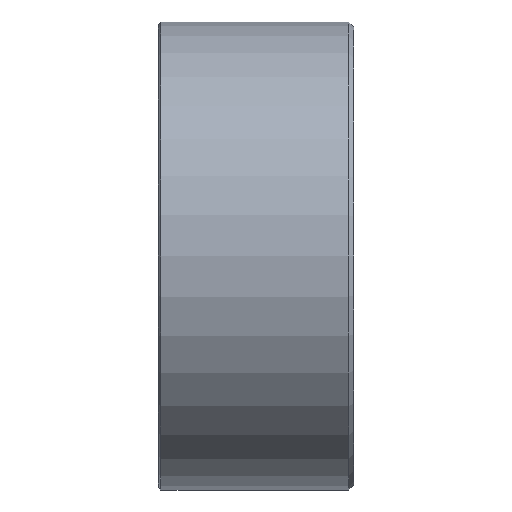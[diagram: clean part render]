
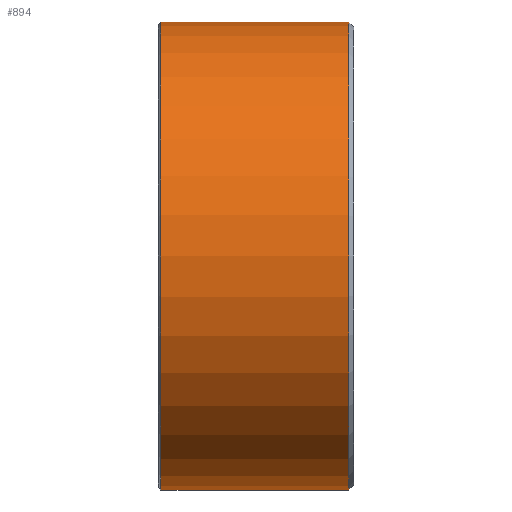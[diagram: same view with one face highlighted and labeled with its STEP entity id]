
A CAD part, front view. The second image highlights one B-rep face of the part: STEP entity #894.
In plain terms, the highlighted cylindrical face has radius 24 mm (diameter 48 mm), a partial arc.
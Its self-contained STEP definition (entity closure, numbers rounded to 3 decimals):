
#207 = CARTESIAN_POINT ( 'NONE',  ( 19.5, 0., 24. ) ) ;
#279 = CIRCLE ( 'NONE', #280, 24. ) ;
#280 = AXIS2_PLACEMENT_3D ( 'NONE', #281, #282, #283 ) ;
#281 = CARTESIAN_POINT ( 'NONE',  ( 19.5, 0., 0. ) ) ;
#282 = DIRECTION ( 'NONE',  ( -1., 0., 0. ) ) ;
#283 = DIRECTION ( 'NONE',  ( 0., 0., 1. ) ) ;
#437 = FACE_OUTER_BOUND ( 'NONE', #851, .T. ) ;
#438 = CYLINDRICAL_SURFACE ( 'NONE', #439, 24. ) ;
#439 = AXIS2_PLACEMENT_3D ( 'NONE', #440, #441, #442 ) ;
#440 = CARTESIAN_POINT ( 'NONE',  ( 0., 0., 0. ) ) ;
#441 = DIRECTION ( 'NONE',  ( -1., 0., 0. ) ) ;
#442 = DIRECTION ( 'NONE',  ( 0., 0., 1. ) ) ;
#480 = CARTESIAN_POINT ( 'NONE',  ( 0.25, 0., 24. ) ) ;
#528 = CARTESIAN_POINT ( 'NONE',  ( 19.5, 0., -24. ) ) ;
#563 = CIRCLE ( 'NONE', #564, 24. ) ;
#564 = AXIS2_PLACEMENT_3D ( 'NONE', #565, #566, #567 ) ;
#565 = CARTESIAN_POINT ( 'NONE',  ( 0.25, 0., 0. ) ) ;
#566 = DIRECTION ( 'NONE',  ( 1., 0., 0. ) ) ;
#567 = DIRECTION ( 'NONE',  ( 0., 0., -1. ) ) ;
#665 = CARTESIAN_POINT ( 'NONE',  ( 0.25, 0., -24. ) ) ;
#667 = LINE ( 'NONE', #668, #669 ) ;
#668 = CARTESIAN_POINT ( 'NONE',  ( 0., 0., 24. ) ) ;
#669 = VECTOR ( 'NONE', #670, 1000. ) ;
#670 = DIRECTION ( 'NONE',  ( -1., 0., 0. ) ) ;
#733 = LINE ( 'NONE', #734, #735 ) ;
#734 = CARTESIAN_POINT ( 'NONE',  ( 0., 0., -24. ) ) ;
#735 = VECTOR ( 'NONE', #736, 1000. ) ;
#736 = DIRECTION ( 'NONE',  ( -1., 0., 0. ) ) ;
#816 = EDGE_CURVE ( 'NONE', #902, #825, #563, .T. ) ;
#820 = ORIENTED_EDGE ( 'NONE', *, *, #1036, .T. ) ;
#825 = VERTEX_POINT ( 'NONE', #665 ) ;
#828 = EDGE_CURVE ( 'NONE', #919, #825, #733, .T. ) ;
#849 = VERTEX_POINT ( 'NONE', #207 ) ;
#851 = EDGE_LOOP ( 'NONE', ( #860, #820, #943, #926 ) ) ;
#860 = ORIENTED_EDGE ( 'NONE', *, *, #828, .F. ) ;
#894 = ADVANCED_FACE ( 'NONE', ( #437 ), #438, .T. ) ;
#902 = VERTEX_POINT ( 'NONE', #480 ) ;
#919 = VERTEX_POINT ( 'NONE', #528 ) ;
#926 = ORIENTED_EDGE ( 'NONE', *, *, #816, .T. ) ;
#943 = ORIENTED_EDGE ( 'NONE', *, *, #963, .T. ) ;
#963 = EDGE_CURVE ( 'NONE', #849, #902, #667, .T. ) ;
#1036 = EDGE_CURVE ( 'NONE', #919, #849, #279, .T. ) ;
